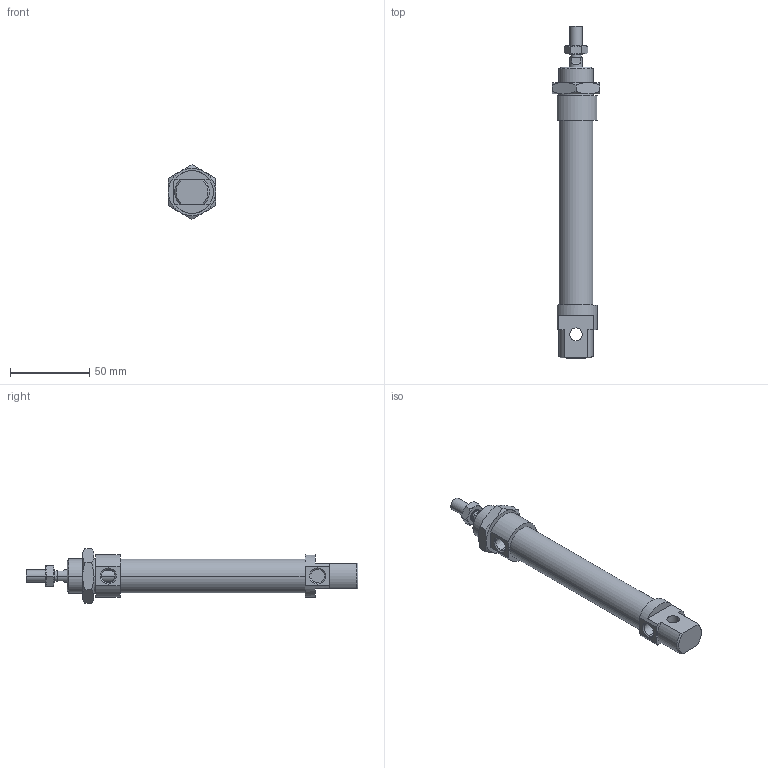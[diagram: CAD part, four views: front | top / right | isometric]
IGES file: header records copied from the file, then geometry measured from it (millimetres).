
Global section: file name: No Iges File Name specified; native system: Autodesk Inventor 2010; preprocessor: AutoDesk Inventor Iges Exporter R2010; author: rivolro1; date: 20090604.093257; units: millimetre
Bounding box: 30 x 210 x 34.64 mm (x, y, z)
Volume: 72595.9 mm3; surface area: 23880.8 mm2
Topology: 4 solids, 4 shells, 110 faces, 249 edges, 152 vertices
Faces by surface type: plane 41, cone 28, bspline 21, cylinder 14, revolution 6
